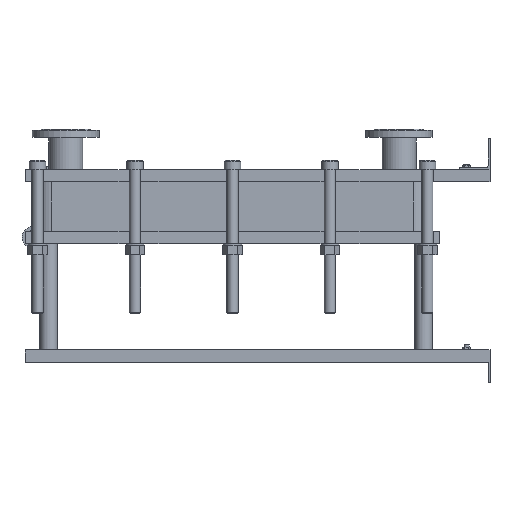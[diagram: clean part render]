
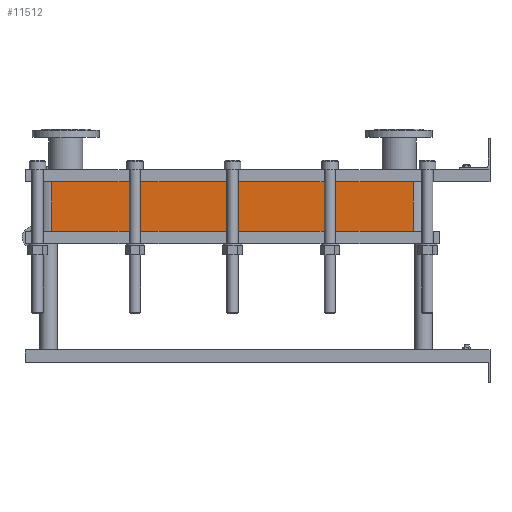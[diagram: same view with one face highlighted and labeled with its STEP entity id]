
A CAD part, left-side view. The second image highlights one B-rep face of the part: STEP entity #11512.
In plain terms, the highlighted planar face has unit normal (-1, 0, 0).
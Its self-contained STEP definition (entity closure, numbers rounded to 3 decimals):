
#1129=LINE('',#23232,#2102);
#1130=LINE('',#23236,#2103);
#1131=LINE('',#23238,#2104);
#1132=LINE('',#23239,#2105);
#2102=VECTOR('',#15887,10.);
#2103=VECTOR('',#15892,10.);
#2104=VECTOR('',#15893,10.);
#2105=VECTOR('',#15894,10.);
#3267=FACE_OUTER_BOUND('',#4093,.T.);
#4093=EDGE_LOOP('',(#10103,#10104,#10105,#10106));
#5642=VERTEX_POINT('',#23229);
#5643=VERTEX_POINT('',#23231);
#5644=VERTEX_POINT('',#23235);
#5645=VERTEX_POINT('',#23237);
#7159=EDGE_CURVE('',#5643,#5642,#1129,.T.);
#7161=EDGE_CURVE('',#5642,#5644,#1130,.T.);
#7162=EDGE_CURVE('',#5645,#5644,#1131,.T.);
#7163=EDGE_CURVE('',#5645,#5643,#1132,.T.);
#10103=ORIENTED_EDGE('',*,*,#7161,.T.);
#10104=ORIENTED_EDGE('',*,*,#7162,.F.);
#10105=ORIENTED_EDGE('',*,*,#7163,.T.);
#10106=ORIENTED_EDGE('',*,*,#7159,.T.);
#10857=PLANE('',#12751);
#11512=ADVANCED_FACE('',(#3267),#10857,.T.);
#12751=AXIS2_PLACEMENT_3D('',#23234,#15890,#15891);
#15887=DIRECTION('',(0.,0.,-1.));
#15890=DIRECTION('center_axis',(-1.,0.,0.));
#15891=DIRECTION('ref_axis',(0.,1.,0.));
#15892=DIRECTION('',(0.,-1.,0.));
#15893=DIRECTION('',(0.,0.,-1.));
#15894=DIRECTION('',(0.,1.,0.));
#23229=CARTESIAN_POINT('',(-200.,1414.,-158.7));
#23231=CARTESIAN_POINT('',(-200.,1414.,0.));
#23232=CARTESIAN_POINT('',(-200.,1414.,0.));
#23234=CARTESIAN_POINT('Origin',(-200.,248.,0.));
#23235=CARTESIAN_POINT('',(-200.,248.,-158.7));
#23236=CARTESIAN_POINT('',(-200.,539.5,-158.7));
#23237=CARTESIAN_POINT('',(-200.,248.,0.));
#23238=CARTESIAN_POINT('',(-200.,248.,0.));
#23239=CARTESIAN_POINT('',(-200.,248.,0.));
